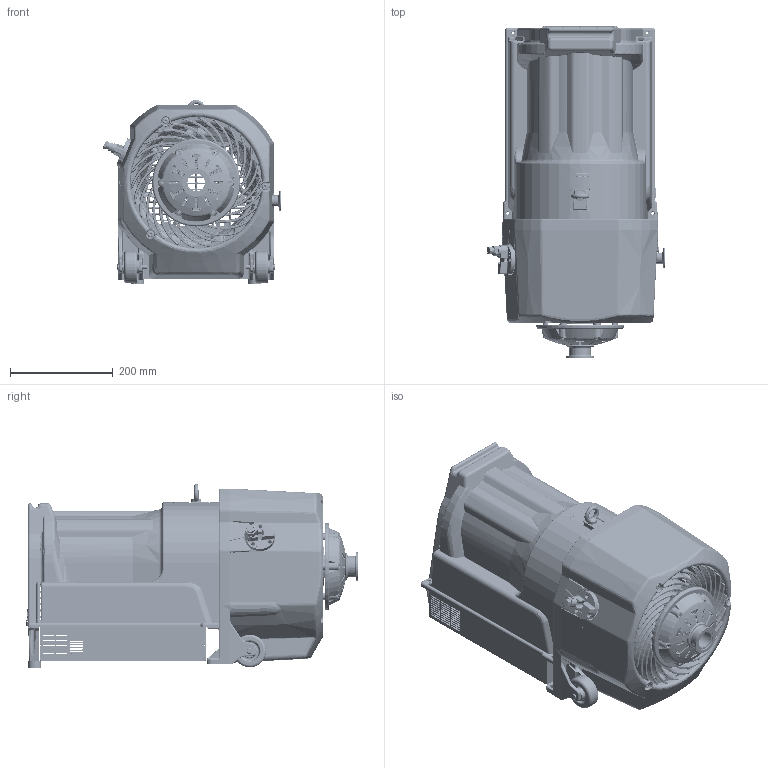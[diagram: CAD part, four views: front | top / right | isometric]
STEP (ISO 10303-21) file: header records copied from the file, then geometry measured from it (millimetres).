
FILE_DESCRIPTION(/* description */ (''),/* implementation_level */ '2;1');
FILE_NAME(/* name */ 'X3835-60136_1.00-IDP 35 Shell Layout_ VPI Model.stp',/* time_stamp */ '2024-05-15T11:25:54-04:00',/* author */ (''),/* organization */ (''),/* preprocessor_version */ 'ST-DEVELOPER v18.102',/* originating_system */ 'SIEMENS PLM Software NX2206.9102',/* authorisation */ '');
FILE_SCHEMA (('AUTOMOTIVE_DESIGN { 1 0 10303 214 3 1 1 1 }'));
Products named in the file (30): 1480-1492_A.00-PIN CLVS SLL 0.313X1.875 ST; 1000132905_1.00-M6x10 Comp limiter- Spirol-281752; 611810025_A.00-EYEBOLT M8 X 1.25 BOSSARD BN268; X3835-42001_1.04-Support Wheels; X3835-43005_4.03-Cast Frame_ Machined_MODEL; N23-AEU-17_1.07-Insert_ Gas Ballast; N22-AAC-26_1.09-Knob_ Gas Ballast_ Plastic_ HT35; 24-AHC-22_1.01-IDP-35 Front Cowl Artwork; X3835-42015_1.03-Rear Finger Guard_ALIGNMENT; X3835-42002_6.07-Rear Cowling; X3835-42017_4.00-VPI Thermal Shield; X3835-20155_2.03-HT After Cooler_ VPI Valve; X3835-20144_1.05-Front Plate_ VPI Valve; 9135-6286_A.02-FLTR-PWR Line EMI_EMC M 3-POS 250V 20A; 0960-3496_A.00-SW-Rocker DPST 20A 125V; X3835-00011_3.02-VFD Display Panel; 648099055_A.00-RUBBER FOOT_ MFG 425-402 with washer; X3835-20246_1.00-VFD Support; X3835-00009_3.02-VFD Bottom Cover; X3835-00007_3.03-Electronics Box; 642971040_A.00-FILTER_ BREATHER VENT; X3835-20183_1.03-Exhaust Fitting_ One Piece; 0515-6155_A.50-SCR SKT-HEAD-Cap HEX M6X1 20 Steel BK; X3835-20232_1.03-Slic Pin_ .313in x 1.875in_MODEL; X3835-60102_2.03-Frame and Wheel Subassembly; X3835-42008_1.15-Knob_ Gas Ballast with Overmolded Insert; X3845-42001_2.07-Front Cowling_ HT45_MODELNX-ARRAGMNTWith compression
 limiters; X3835-42016_1.02-IDP-35 Front Cowling with Artwork; X3835-60133_1.02-Rear Cowling_ With Finger Guard_NX-ARRAGMNTArrangeme
nt 1; X3835-60136_1.00-IDP 35 Shell Layout_ VPI Model
Assembly tree (41 placements, depth 4):
  X3835-60136_1.00-IDP 35 Shell Layout_ VPI Model
    X3835-60133_1.02-Rear Cowling_ With Finger Guard_NX-ARRAGMNTArrangeme
nt 1
      X3835-42002_6.07-Rear Cowling
      X3835-42015_1.03-Rear Finger Guard_ALIGNMENT
    X3835-42016_1.02-IDP-35 Front Cowling with Artwork
      X3845-42001_2.07-Front Cowling_ HT45_MODELNX-ARRAGMNTWith compression
 limiters
        1000132905_1.00-M6x10 Comp limiter- Spirol-281752  x3
      24-AHC-22_1.01-IDP-35 Front Cowl Artwork  x2
    0515-6155_A.50-SCR SKT-HEAD-Cap HEX M6X1 20 Steel BK  x7
    X3835-20183_1.03-Exhaust Fitting_ One Piece
    X3835-42008_1.15-Knob_ Gas Ballast with Overmolded Insert
      N22-AAC-26_1.09-Knob_ Gas Ballast_ Plastic_ HT35
      N23-AEU-17_1.07-Insert_ Gas Ballast
    642971040_A.00-FILTER_ BREATHER VENT
    X3835-60102_2.03-Frame and Wheel Subassembly
      X3835-43005_4.03-Cast Frame_ Machined_MODEL
      X3835-42001_1.04-Support Wheels  x2
      611810025_A.00-EYEBOLT M8 X 1.25 BOSSARD BN268
      X3835-20232_1.03-Slic Pin_ .313in x 1.875in_MODEL  x2
        1480-1492_A.00-PIN CLVS SLL 0.313X1.875 ST
    X3835-00007_3.03-Electronics Box
    X3835-00009_3.02-VFD Bottom Cover
    X3835-20246_1.00-VFD Support
    648099055_A.00-RUBBER FOOT_ MFG 425-402 with washer  x2
    X3835-00011_3.02-VFD Display Panel
    0960-3496_A.00-SW-Rocker DPST 20A 125V
    9135-6286_A.02-FLTR-PWR Line EMI_EMC M 3-POS 250V 20A
    X3835-20144_1.05-Front Plate_ VPI Valve
    X3835-20155_2.03-HT After Cooler_ VPI Valve
    X3835-42017_4.00-VPI Thermal Shield
Bounding box: 346.44 x 645.04 x 357.51 mm (x, y, z)
Volume: 4564152.6 mm3; surface area: 2363100 mm2
Topology: 109 solids, 110 shells, 21902 faces, 52295 edges, 30002 vertices
Faces by surface type: bspline 7751, cylinder 5268, plane 4657, torus 2008, cone 1776, sphere 349, extrusion 92, revolution 1
Full cylindrical faces by diameter (mm): 0.418 x6, 0.42 x10, 0.63 x16, 0.908 x4, 0.91 x12, 1 x4, 1.284 x14, 1.286 x2, 1.5 x4, 2.459 x2, 2.565 x1, 3 x7, 3.2 x6, 3.3 x7, 3.5 x2, 3.69 x2, 4 x2, 4.039 x2, 4.1 x1, 4.19 x2, 4.22 x2, 5 x6, 5.2 x1, 5.512 x3, 5.664 x2, 5.9 x2, 6 x1, 6.3 x2, 6.35 x2, 6.6 x4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
Entity records: 805567 total; most frequent: CARTESIAN_POINT 336757, ORIENTED_EDGE 99962, DIRECTION 84315, EDGE_CURVE 49981, AXIS2_PLACEMENT_3D 33769, VERTEX_POINT 29131, EDGE_LOOP 22599, ADVANCED_FACE 21389
